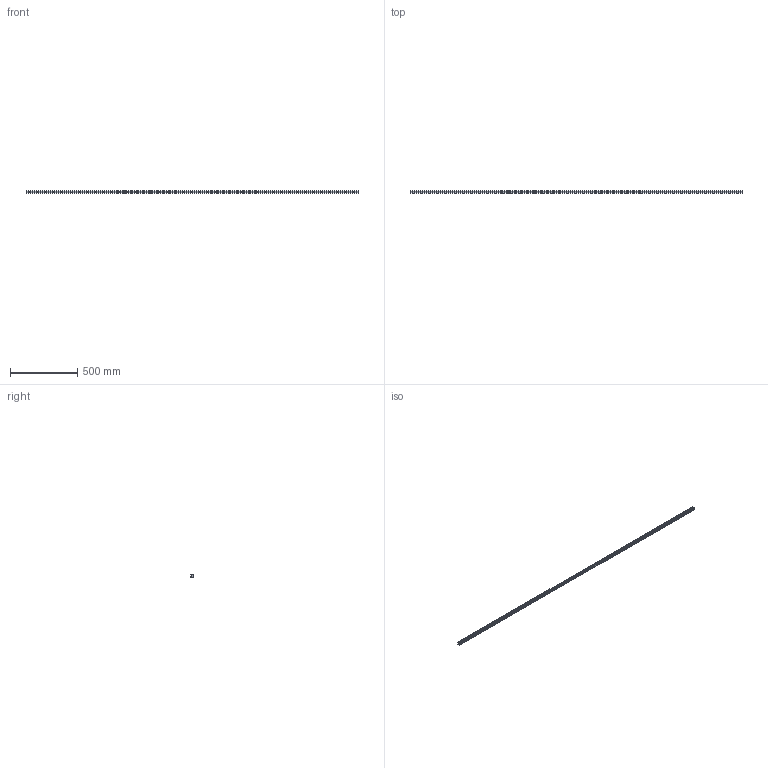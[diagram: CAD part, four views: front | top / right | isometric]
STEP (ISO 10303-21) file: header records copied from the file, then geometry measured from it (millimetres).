
FILE_DESCRIPTION (( 'STEP AP203' ), '1' );
FILE_NAME ('L1018.20R-2460.step', '2023-08-06T09:12:50', ( '' ), ( '' ), 'SwSTEP 2.0', 'SolidWorks 2019', '' );
FILE_SCHEMA (( 'CONFIG_CONTROL_DESIGN' ));
Length unit declared in the file: millimetre
Products named in the file (1): L1018.20R-2460
Bounding box: 2460 x 19.3 x 20 mm (x, y, z)
Volume: 780135.5 mm3; surface area: 208253.3 mm2
Topology: 1 solids, 1 shells, 398 faces, 901 edges, 505 vertices
Faces by surface type: cylinder 167, cone 164, plane 67
Entity records: 10592 total; most frequent: DIRECTION 2033, CARTESIAN_POINT 1723, ORIENTED_EDGE 1638, EDGE_CURVE 819, AXIS2_PLACEMENT_3D 815, VERTEX_POINT 505, EDGE_LOOP 480, CIRCLE 416
